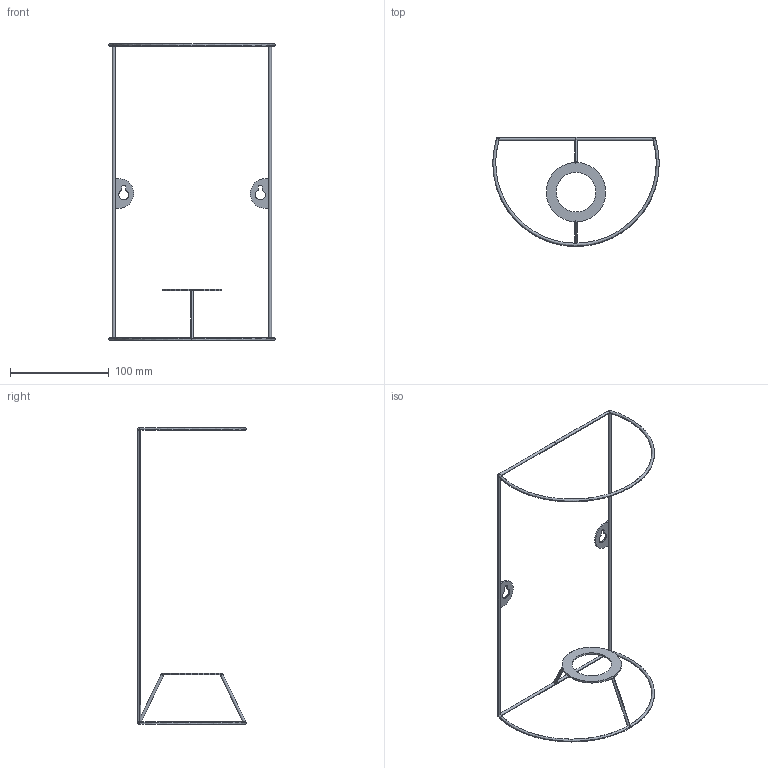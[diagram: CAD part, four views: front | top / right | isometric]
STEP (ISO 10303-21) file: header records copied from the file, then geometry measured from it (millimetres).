
FILE_DESCRIPTION(/* description */ (''),/* implementation_level */ '2;1');
FILE_NAME(/* name */ 'Dou Wall Lamp_3D',/* time_stamp */ '2021-05-03T16:08:51+02:00',/* author */ (''),/* organization */ (''),/* preprocessor_version */ 'ST-DEVELOPER v16.5',/* originating_system */ '',/* authorisation */ '');
FILE_SCHEMA (('CONFIG_CONTROL_DESIGN'));
Length unit declared in the file: millimetre
Products named in the file (1): Document
Bounding box: 168.1 x 109.82 x 300 mm (x, y, z)
Volume: 15965.8 mm3; surface area: 21286 mm2
Topology: 9 solids, 9 shells, 63 faces, 151 edges, 86 vertices
Faces by surface type: cylinder 25, bspline 20, plane 18
Full cylindrical faces by diameter (mm): 40 x1
Entity records: 2689 total; most frequent: CARTESIAN_POINT 1722, ORIENTED_EDGE 270, EDGE_CURVE 135, VERTEX_POINT 86, EDGE_LOOP 69, ADVANCED_FACE 63, FACE_OUTER_BOUND 63, DIRECTION 46
